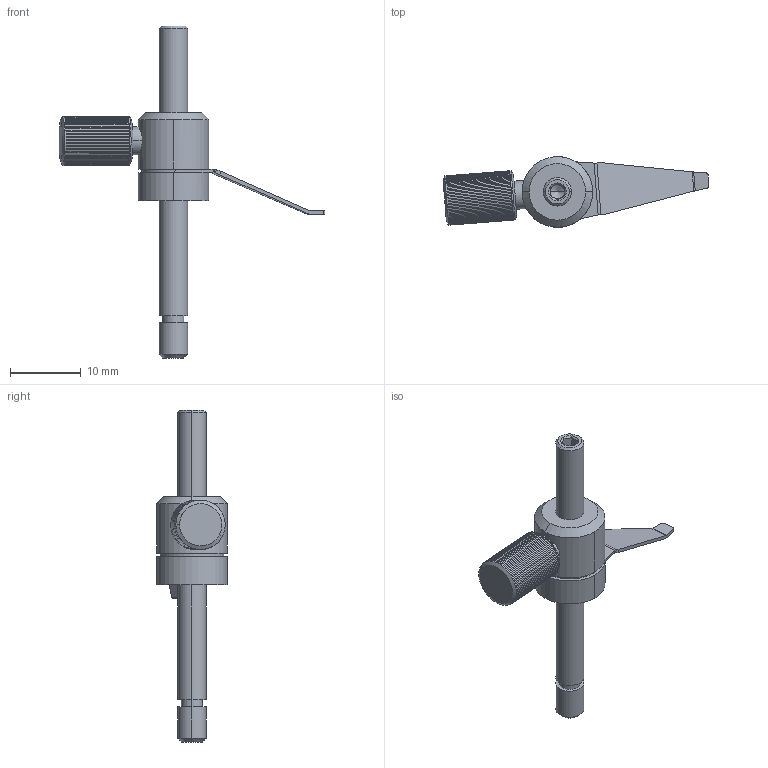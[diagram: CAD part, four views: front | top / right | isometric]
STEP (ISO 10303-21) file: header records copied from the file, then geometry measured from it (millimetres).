
FILE_DESCRIPTION (( 'STEP AP203' ), '1' );
FILE_NAME ('4SC-28M4.STEP', '2010-08-03T08:06:50', ( 'Darius' ), ( '' ), 'SwSTEP 2.0', 'SolidWorks 2003240', '' );
FILE_SCHEMA (( 'CONFIG_CONTROL_DESIGN' ));
Length unit declared in the file: millimetre
Products named in the file (1): 4SC-28M4
Bounding box: 37.63 x 10.01 x 47 mm (x, y, z)
Volume: 1794.3 mm3; surface area: 1529.2 mm2
Topology: 1 solids, 2 shells, 294 faces, 722 edges, 434 vertices
Faces by surface type: plane 244, cylinder 29, cone 19, bspline 2
Entity records: 8772 total; most frequent: CARTESIAN_POINT 1995, ORIENTED_EDGE 1432, DIRECTION 1339, EDGE_CURVE 716, AXIS2_PLACEMENT_3D 464, VERTEX_POINT 434, LINE 411, VECTOR 411
